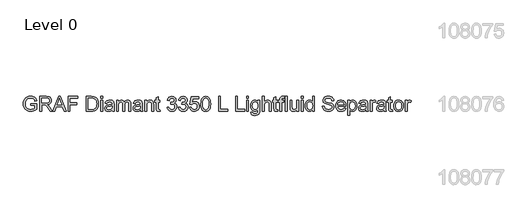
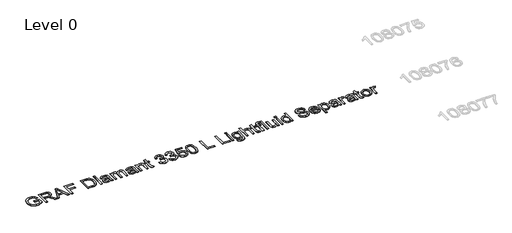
# One storey, part 2 of 8: 1 proxy.
"""IFC4 building model written with IfcOpenShell, lengths in millimetres."""

from ifc_helpers import new_model, si_unit, origin, origin_with_axes, place, context, project, spatial, polyline, outline, extrude, element, save

model = new_model("IFC4")

# Units and contexts
model_context = context("Model", 3, world=origin())
ifc_project = project(units=[si_unit("LENGTHUNIT", "METRE", prefix="MILLI")], contexts=[model_context])

# Site, building, storey
site = spatial("IfcSite", under=ifc_project)
building = spatial("IfcBuilding", under=site)
storey = spatial("IfcBuildingStorey", under=building, Name="Level 0", Elevation=0.0)

# Proxy
placement = place(None, origin())
element("IfcBuildingElementProxy", 1, Name="400mm Arial", ObjectType="400mm Arial", at=placement, inside=storey, context=model_context, shape_type="SweptSolid", body=[
    extrude(outline(polyline([(-14937.8149833, 2305.9861864), (-14937.8149833, 2356.2143415), (-14774.5734793, 2356.2143415), (-14774.5734793, 2206.0203856), (-14814.2434211, 2178.429236), (-14855.1641617, 2158.6371846), (-14897.2375993, 2146.717808), (-14940.3656318, 2142.7446824), (-14969.2167773, 2144.3235093), (-14996.7128907, 2149.05999), (-15022.8539722, 2156.9541245), (-15047.6400216, 2168.0059128), (-15070.2708957, 2182.0498079), (-15089.9464511, 2198.9202631), (-15106.6666877, 2218.6172783), (-15120.4316057, 2241.1408534), (-15131.182957, 2265.770553), (-15138.8624937, 2291.7859414), (-15143.4702157, 2319.1870187), (-15145.006123, 2347.9737848), (-15138.8870191, 2404.5662984), (-15131.2381393, 2431.3818302), (-15120.5297076, 2457.2102119), (-15106.9517963, 2480.9171408), (-15090.6944778, 2501.3683141), (-15071.7577521, 2518.5637317), (-15050.1416192, 2532.5033936), (-15026.3151286, 2543.2762047), (-15000.74733, 2550.9710698), (-14973.4382232, 2555.5879888), (-14944.3878083, 2557.1269618), (-14903.0133466, 2553.5585065), (-14865.8082141, 2542.8531404), (-14834.4769309, 2525.7834158), (-14810.7240167, 2503.1218849), (-14793.1515201, 2473.7771644), (-14780.3614894, 2436.6578711), (-14826.6655698, 2423.610323), (-14837.0030539, 2450.0855639), (-14849.5723554, 2470.0615563), (-14866.2006216, 2485.1201926), (-14888.7149997, 2496.8433655), (-14915.5581226, 2504.3849464), (-14945.1726232, 2506.8988067), (-14979.8393699, 2504.1887427), (-15009.478396, 2496.0585506), (-15033.9793369, 2483.5260373), (-15053.2318279, 2467.6090096), (-15068.0084214, 2449.1290708), (-15079.0816695, 2428.9078238), (-15090.8538933, 2390.9914528), (-15094.7779679, 2350.033924), (-15090.0568157, 2302.0007981), (-15075.8933588, 2262.4780091), (-15052.7167931, 2231.7475998), (-15020.9563142, 2210.091613), (-14983.78797, 2197.2525314), (-14944.3878083, 2192.9728375), (-14909.5984343, 2196.1979363), (-14875.6674516, 2205.8732328), (-14846.2001038, 2219.2028238), (-14824.8016344, 2233.390806), (-14824.8016344, 2305.9861864), (-14937.8149833, 2305.9861864)])), origin_with_axes(), (0.0, 0.0, 1.0), 5.0),
    extrude(outline(polyline([(-14692.9527273, 2149.0232018), (-14692.9527273, 2550.8484424), (-14519.8029349, 2550.8484424), (-14473.2658625, 2548.1383784), (-14439.4084563, 2540.0081863), (-14414.6622607, 2524.9986009), (-14395.4588206, 2501.6503569), (-14383.1347737, 2472.6980439), (-14379.0267581, 2440.8762513), (-14380.7282123, 2420.2380714), (-14385.832575, 2401.2921486), (-14394.3398462, 2384.0384831), (-14406.2500258, 2368.4770747), (-14421.716398, 2355.1045642), (-14440.892247, 2344.4175922), (-14463.7775727, 2336.4161588), (-14490.3723753, 2331.100264), (-14461.8247325, 2309.6159554), (-14421.1124584, 2257.9162724), (-14354.1088843, 2149.0232018), (-14412.4794942, 2149.0232018), (-14464.7677885, 2232.3116855), (-14502.5370066, 2287.4449339), (-14516.5778361, 2303.5213771), (-14529.0735612, 2313.4909791), (-14552.9613654, 2323.055911), (-14582.0976194, 2324.8217446), (-14642.7245723, 2324.8217446), (-14642.7245723, 2149.0232018), (-14692.9527273, 2149.0232018)]), holes=[polyline([(-14642.7245723, 2375.0498997), (-14530.2998345, 2375.0498997), (-14498.0120581, 2376.827996), (-14472.9592942, 2382.1622849), (-14454.0992106, 2391.4083857), (-14440.3894749, 2404.9219177), (-14432.0385536, 2421.268141), (-14429.2549132, 2439.0123159), (-14434.5646766, 2463.5132568), (-14450.493967, 2483.2562572), (-14462.6555327, 2490.8530204), (-14477.9011757, 2496.2792798), (-14517.6446939, 2500.6202873), (-14642.7245723, 2500.6202873), (-14642.7245723, 2375.0498997)])]), origin_with_axes(), (0.0, 0.0, 1.0), 5.0),
    extrude(outline(polyline([(-14337.9220765, 2149.0232018), (-14177.5255266, 2550.8484424), (-14134.7531133, 2550.8484424), (-13974.3565634, 2149.0232018), (-14027.4296726, 2149.0232018), (-14073.4394475, 2274.5935895), (-14238.9372943, 2274.5935895), (-14284.8489673, 2149.0232018), (-14337.9220765, 2149.0232018)]), holes=[polyline([(-14220.4941437, 2324.8217446), (-14091.7844963, 2324.8217446), (-14127.9840846, 2423.610323), (-14156.13932, 2500.6202873), (-14181.1552956, 2432.2432872), (-14220.4941437, 2324.8217446)])]), origin_with_axes(), (0.0, 0.0, 1.0), 5.0),
    extrude(outline(polyline([(-13920.6948431, 2149.0232018), (-13920.6948431, 2550.8484424), (-13650.7185095, 2550.8484424), (-13650.7185095, 2500.6202873), (-13870.466688, 2500.6202873), (-13870.466688, 2381.328419), (-13682.1111064, 2381.328419), (-13682.1111064, 2331.100264), (-13870.466688, 2331.100264), (-13870.466688, 2149.0232018), (-13920.6948431, 2149.0232018)])), origin_with_axes(), (0.0, 0.0, 1.0), 5.0),
    extrude(outline(polyline([(-13424.6918117, 2149.0232018), (-13424.6918117, 2550.8484424), (-13286.0738759, 2550.8484424), (-13244.6503633, 2549.4014399), (-13214.3614123, 2545.0604324), (-13182.3311533, 2533.9013452), (-13155.3040894, 2516.3165858), (-13127.516736, 2485.7088038), (-13107.7246846, 2447.64528), (-13095.8788844, 2402.8617785), (-13091.9302843, 2352.0940632), (-13094.6035602, 2308.9660306), (-13102.6233876, 2271.0128714), (-13114.8370699, 2238.7005695), (-13130.09191, 2212.4951087), (-13147.6521439, 2191.8078779), (-13166.7820076, 2176.0502657), (-13188.7445627, 2164.363881), (-13214.8028707, 2155.8903324), (-13245.0059825, 2150.7399845), (-13279.4029491, 2149.0232018), (-13424.6918117, 2149.0232018)]), holes=[polyline([(-13374.4636566, 2199.2513569), (-13285.5833666, 2199.2513569), (-13248.8196925, 2201.0662414), (-13220.9342373, 2206.5108949), (-13199.8913872, 2215.2664864), (-13183.6555284, 2227.0141848), (-13166.2056591, 2248.7560107), (-13153.0967974, 2276.8989833), (-13144.8930289, 2311.56573), (-13142.1584394, 2352.8788781), (-13147.5172538, 2407.619719), (-13154.2157718, 2429.6190623), (-13163.593697, 2448.0376875), (-13187.3466111, 2475.8005154), (-13215.7348384, 2492.5759344), (-13244.6258378, 2498.6091991), (-13286.9567927, 2500.6202873), (-13374.4636566, 2500.6202873), (-13374.4636566, 2199.2513569)])]), origin_with_axes(), (0.0, 0.0, 1.0), 5.0),
    extrude(outline(polyline([(-13029.1450905, 2500.6202873), (-13029.1450905, 2550.8484424), (-12978.9169354, 2550.8484424), (-12978.9169354, 2500.6202873), (-13029.1450905, 2500.6202873)])), origin_with_axes(), (0.0, 0.0, 1.0), 5.0),
    extrude(outline(polyline([(-13029.1450905, 2149.0232018), (-13029.1450905, 2444.1136129), (-12978.9169354, 2444.1136129), (-12978.9169354, 2149.0232018), (-13029.1450905, 2149.0232018)])), origin_with_axes(), (0.0, 0.0, 1.0), 5.0),
    extrude(outline(polyline([(-12715.2191213, 2186.6943181), (-12739.2172901, 2166.1174519), (-12763.9266974, 2152.6529708), (-12789.911429, 2145.2217545), (-12817.7355706, 2142.7446824), (-12840.0997302, 2144.2346045), (-12859.7109062, 2148.7043708), (-12876.5690987, 2156.1539812), (-12890.6743075, 2166.5834357), (-12901.8119349, 2179.3305469), (-12909.767383, 2193.733127), (-12914.5406519, 2209.7911761), (-12916.1317416, 2227.5046941), (-12913.7282459, 2248.3268151), (-12906.5177588, 2267.2359496), (-12895.3954598, 2283.4227574), (-12881.2565284, 2296.077898), (-12864.640525, 2305.6428299), (-12846.0870097, 2312.5590114), (-12802.6278833, 2320.112855), (-12751.2715568, 2328.0591061), (-12715.5134269, 2337.3787834), (-12715.2191213, 2348.562396), (-12718.677212, 2370.9786722), (-12729.0514843, 2385.6449011), (-12752.2525754, 2396.5342082), (-12784.5771401, 2400.1639772), (-12814.498209, 2397.7482188), (-12835.3939063, 2390.5009435), (-12849.6432023, 2377.0977761), (-12859.6250671, 2356.2143415), (-12909.8532222, 2362.4928609), (-12901.1344189, 2389.9613832), (-12888.123659, 2411.5437936), (-12869.6069319, 2428.0494324), (-12844.370227, 2440.2876401), (-12813.5049276, 2447.8660092), (-12778.102417, 2450.3921323), (-12744.1469088, 2448.1603148), (-12717.2302095, 2441.4648625), (-12696.9353861, 2431.3971586), (-12682.8455057, 2419.0485863), (-12673.501303, 2403.7814835), (-12667.4435128, 2384.9581881), (-12664.9909662, 2341.0085524), (-12664.9909662, 2278.5176641), (-12662.4403177, 2191.2560549), (-12652.4339274, 2149.0232018), (-12702.6620825, 2149.0232018), (-12710.7064355, 2166.4853339), (-12715.2191213, 2186.6943181)]), holes=[polyline([(-12715.2191213, 2287.1506283), (-12748.9661629, 2278.7874443), (-12796.2512621, 2271.7486354), (-12839.4651338, 2263.6061806), (-12850.7100601, 2258.0388997), (-12859.0364559, 2250.3624288), (-12864.1868038, 2241.1653789), (-12865.9035865, 2231.0363613), (-12862.1634529, 2216.1003523), (-12850.943052, 2203.8621446), (-12832.4876386, 2195.6951643), (-12807.0424673, 2192.9728375), (-12780.0644543, 2195.9772071), (-12756.225701, 2204.990316), (-12736.8996335, 2218.270856), (-12723.459678, 2234.0775191), (-12717.4999896, 2250.3624288), (-12715.5134269, 2272.9258578), (-12715.2191213, 2287.1506283)])]), origin_with_axes(), (0.0, 0.0, 1.0), 5.0),
    extrude(outline(polyline([(-12595.927253, 2149.0232018), (-12595.927253, 2444.1136129), (-12545.6990979, 2444.1136129), (-12545.6990979, 2395.5531895), (-12530.5914106, 2417.8591012), (-12511.1672413, 2435.3334959), (-12488.0887774, 2446.6274732), (-12462.0182067, 2450.3921323), (-12434.0837005, 2446.5538968), (-12411.6919498, 2435.0391903), (-12394.9655817, 2416.6083024), (-12384.0272237, 2392.0215224), (-12365.7189631, 2417.5586642), (-12344.8355285, 2435.7994798), (-12321.37692, 2446.7439692), (-12295.3431374, 2450.3921323), (-12275.2353207, 2448.874619), (-12257.586182, 2444.3220794), (-12242.3957213, 2436.7345132), (-12229.6639386, 2426.1119206), (-12219.5993003, 2412.3316742), (-12212.410273, 2395.2711467), (-12208.0968566, 2374.930338), (-12206.6590511, 2351.3092482), (-12206.6590511, 2149.0232018), (-12256.8872062, 2149.0232018), (-12256.8872062, 2329.7268379), (-12258.0521659, 2354.7796017), (-12261.5470448, 2371.6653853), (-12268.0953443, 2383.2291427), (-12278.4205657, 2392.315828), (-12291.7011057, 2398.2019399), (-12307.1153613, 2400.1639772), (-12334.3263662, 2395.1362566), (-12356.5096505, 2380.0530948), (-12365.1150235, 2368.483206), (-12371.2617185, 2353.8844222), (-12376.1790745, 2315.6001692), (-12376.1790745, 2149.0232018), (-12426.4072296, 2149.0232018), (-12426.4072296, 2335.3186442), (-12429.3134973, 2363.7191342), (-12438.0323006, 2383.9771694), (-12453.3729798, 2396.1172752), (-12476.1448753, 2400.1639772), (-12495.4954683, 2397.4661759), (-12513.3254823, 2389.372772), (-12528.0407621, 2376.0799692), (-12538.0471524, 2357.7839714), (-12543.7861115, 2332.4001137), (-12545.6990979, 2297.8437316), (-12545.6990979, 2149.0232018), (-12595.927253, 2149.0232018)])), origin_with_axes(), (0.0, 0.0, 1.0), 5.0),
    extrude(outline(polyline([(-11942.961237, 2186.6943181), (-11966.9594058, 2166.1174519), (-11991.6688131, 2152.6529708), (-12017.6535447, 2145.2217545), (-12045.4776863, 2142.7446824), (-12067.8418459, 2144.2346045), (-12087.453022, 2148.7043708), (-12104.3112144, 2156.1539812), (-12118.4164232, 2166.5834357), (-12129.5540506, 2179.3305469), (-12137.5094988, 2193.733127), (-12142.2827677, 2209.7911761), (-12143.8738573, 2227.5046941), (-12141.4703616, 2248.3268151), (-12134.2598745, 2267.2359496), (-12123.1375755, 2283.4227574), (-12108.9986441, 2296.077898), (-12092.3826407, 2305.6428299), (-12073.8291254, 2312.5590114), (-12030.369999, 2320.112855), (-11979.0136725, 2328.0591061), (-11943.2555426, 2337.3787834), (-11942.961237, 2348.562396), (-11946.4193277, 2370.9786722), (-11956.7936, 2385.6449011), (-11979.9946912, 2396.5342082), (-12012.3192558, 2400.1639772), (-12042.2403247, 2397.7482188), (-12063.1360221, 2390.5009435), (-12077.385318, 2377.0977761), (-12087.3671828, 2356.2143415), (-12137.5953379, 2362.4928609), (-12128.8765346, 2389.9613832), (-12115.8657747, 2411.5437936), (-12097.3490476, 2428.0494324), (-12072.1123428, 2440.2876401), (-12041.2470434, 2447.8660092), (-12005.8445327, 2450.3921323), (-11971.8890245, 2448.1603148), (-11944.9723252, 2441.4648625), (-11924.6775018, 2431.3971586), (-11910.5876214, 2419.0485863), (-11901.2434187, 2403.7814835), (-11895.1856285, 2384.9581881), (-11892.7330819, 2341.0085524), (-11892.7330819, 2278.5176641), (-11890.1824334, 2191.2560549), (-11880.1760431, 2149.0232018), (-11930.4041982, 2149.0232018), (-11938.4485512, 2166.4853339), (-11942.961237, 2186.6943181)]), holes=[polyline([(-11942.961237, 2287.1506283), (-11976.7082787, 2278.7874443), (-12023.9933778, 2271.7486354), (-12067.2072495, 2263.6061806), (-12078.4521758, 2258.0388997), (-12086.7785716, 2250.3624288), (-12091.9289196, 2241.1653789), (-12093.6457022, 2231.0363613), (-12089.9055686, 2216.1003523), (-12078.6851677, 2203.8621446), (-12060.2297543, 2195.6951643), (-12034.784583, 2192.9728375), (-12007.80657, 2195.9772071), (-11983.9678167, 2204.990316), (-11964.6417492, 2218.270856), (-11951.2017937, 2234.0775191), (-11945.2421054, 2250.3624288), (-11943.2555426, 2272.9258578), (-11942.961237, 2287.1506283)])]), origin_with_axes(), (0.0, 0.0, 1.0), 5.0),
    extrude(outline(polyline([(-11823.6693687, 2149.0232018), (-11823.6693687, 2444.1136129), (-11773.4412136, 2444.1136129), (-11773.4412136, 2402.9108294), (-11755.9913443, 2423.6838994), (-11735.0343333, 2438.5218066), (-11710.5701806, 2447.4245508), (-11682.5988863, 2450.3921323), (-11657.840428, 2448.0008993), (-11635.1666344, 2440.8272004), (-11616.2574998, 2429.7662151), (-11602.7930188, 2415.7131229), (-11593.6572826, 2398.7047119), (-11587.7343824, 2378.7777705), (-11585.0856321, 2330.2173472), (-11585.0856321, 2149.0232018), (-11635.3137871, 2149.0232018), (-11635.3137871, 2323.4483185), (-11636.7607897, 2349.4207873), (-11641.1017972, 2367.8884635), (-11649.109362, 2381.1199526), (-11661.5560361, 2391.3838602), (-11677.509852, 2397.968948), (-11696.0388418, 2400.1639772), (-11725.4571387, 2395.2343585), (-11750.534428, 2380.4455023), (-11760.5561467, 2368.3728414), (-11767.7145172, 2351.873334), (-11772.0095395, 2330.9469798), (-11773.4412136, 2305.593779), (-11773.4412136, 2149.0232018), (-11823.6693687, 2149.0232018)])), origin_with_axes(), (0.0, 0.0, 1.0), 5.0),
    extrude(outline(polyline([(-11409.2870893, 2190.9126983), (-11403.0085699, 2147.5516738), (-11440.5815844, 2142.7446824), (-11464.6901178, 2144.8293471), (-11482.6672846, 2151.083341), (-11495.3714762, 2160.7218493), (-11503.6610838, 2172.960057), (-11508.2228205, 2193.9783816), (-11509.7433995, 2229.9572408), (-11509.7433995, 2393.8854578), (-11547.4145158, 2393.8854578), (-11547.4145158, 2444.1136129), (-11509.7433995, 2444.1136129), (-11509.7433995, 2515.8260765), (-11459.5152444, 2545.354738), (-11459.5152444, 2444.1136129), (-11409.2870893, 2444.1136129), (-11409.2870893, 2393.8854578), (-11459.5152444, 2393.8854578), (-11459.5152444, 2231.4287687), (-11456.866494, 2205.5298763), (-11448.2825808, 2196.3573519), (-11431.1638053, 2192.9728375), (-11409.2870893, 2190.9126983)])), origin_with_axes(), (0.0, 0.0, 1.0), 5.0),
    extrude(outline(polyline([(-11214.6529884, 2255.7580314), (-11164.4248333, 2262.0365507), (-11153.179907, 2230.4722756), (-11136.7110564, 2209.1596453), (-11114.208941, 2197.0195395), (-11084.8642205, 2192.9728375), (-11050.4304658, 2198.5401184), (-11036.1566443, 2205.4992194), (-11023.8448602, 2215.241961), (-11006.8487121, 2240.1598348), (-11001.1833293, 2270.3752093), (-11006.7996611, 2299.0577422), (-11023.6486565, 2322.320147), (-11049.1551415, 2337.7344026), (-11080.7439422, 2342.8724878), (-11115.9625118, 2337.3787834), (-11110.3707055, 2387.6069384), (-11102.3263525, 2387.0183272), (-11072.2336053, 2390.6235708), (-11045.3291688, 2401.4393014), (-11034.2559207, 2409.6185445), (-11026.3464578, 2419.7352993), (-11021.6007801, 2431.789566), (-11020.0188875, 2445.7813446), (-11024.6051497, 2467.4741196), (-11038.3639363, 2485.0711417), (-11059.3577355, 2496.7330009), (-11085.6490354, 2500.6202873), (-11111.9893863, 2496.6962127), (-11133.5227457, 2484.9239889), (-11149.2435697, 2465.3036158), (-11158.1463139, 2437.8350935), (-11208.374469, 2444.1136129), (-11202.4209121, 2468.0933876), (-11193.5856128, 2489.2159455), (-11181.8685713, 2507.4812866), (-11167.2697874, 2522.8894108), (-11150.2491138, 2535.1214871), (-11131.2664028, 2543.8586845), (-11110.3216546, 2549.1010029), (-11087.414869, 2550.8484424), (-11055.8383311, 2547.4026144), (-11026.8369671, 2537.0651303), (-11002.3850772, 2520.7556952), (-10984.4569613, 2499.394014), (-10973.4572896, 2474.7827086), (-10969.7907324, 2448.7244006), (-10973.2733486, 2424.4441889), (-10983.7211973, 2402.4203201), (-11000.9871256, 2383.6583383), (-11024.9239808, 2369.1637877), (-10993.4823329, 2356.4595962), (-10970.1831399, 2334.8281349), (-10955.7621657, 2305.4466262), (-10950.9551743, 2269.4922925), (-10953.35867, 2244.010333), (-10960.5691571, 2220.5394617), (-10972.5866356, 2199.0796786), (-10989.4111055, 2179.6309838), (-11009.908264, 2163.493227), (-11032.9438082, 2151.9662578), (-11058.5177383, 2145.0500763), (-11086.6300541, 2142.7446824), (-11112.0384372, 2144.7128511), (-11135.1904774, 2150.6173571), (-11156.0861748, 2160.4582005), (-11174.7255292, 2174.2353812), (-11190.3543826, 2191.1395589), (-11202.218577, 2210.3613932), (-11210.3181122, 2231.900884), (-11214.6529884, 2255.7580314)])), origin_with_axes(), (0.0, 0.0, 1.0), 5.0),
    extrude(outline(polyline([(-10907.0055386, 2255.7580314), (-10856.7773835, 2262.0365507), (-10845.5324572, 2230.4722756), (-10829.0636065, 2209.1596453), (-10806.5614911, 2197.0195395), (-10777.2167707, 2192.9728375), (-10742.7830159, 2198.5401184), (-10728.5091945, 2205.4992194), (-10716.1974104, 2215.241961), (-10699.2012622, 2240.1598348), (-10693.5358795, 2270.3752093), (-10699.1522113, 2299.0577422), (-10716.0012067, 2322.320147), (-10741.5076917, 2337.7344026), (-10773.0964923, 2342.8724878), (-10808.315062, 2337.3787834), (-10802.7232557, 2387.6069384), (-10794.6789027, 2387.0183272), (-10764.5861555, 2390.6235708), (-10737.6817189, 2401.4393014), (-10726.6084709, 2409.6185445), (-10718.699008, 2419.7352993), (-10713.9533302, 2431.789566), (-10712.3714377, 2445.7813446), (-10716.9576999, 2467.4741196), (-10730.7164865, 2485.0711417), (-10751.7102857, 2496.7330009), (-10778.0015856, 2500.6202873), (-10804.3419364, 2496.6962127), (-10825.8752959, 2484.9239889), (-10841.5961198, 2465.3036158), (-10850.4988641, 2437.8350935), (-10900.7270192, 2444.1136129), (-10894.7734622, 2468.0933876), (-10885.938163, 2489.2159455), (-10874.2211214, 2507.4812866), (-10859.6223376, 2522.8894108), (-10842.6016639, 2535.1214871), (-10823.618953, 2543.8586845), (-10802.6742047, 2549.1010029), (-10779.7674192, 2550.8484424), (-10748.1908812, 2547.4026144), (-10719.1895173, 2537.0651303), (-10694.7376273, 2520.7556952), (-10676.8095114, 2499.394014), (-10665.8098398, 2474.7827086), (-10662.1432826, 2448.7244006), (-10665.6258988, 2424.4441889), (-10676.0737475, 2402.4203201), (-10693.3396758, 2383.6583383), (-10717.2765309, 2369.1637877), (-10685.8348831, 2356.4595962), (-10662.53569, 2334.8281349), (-10648.1147158, 2305.4466262), (-10643.3077244, 2269.4922925), (-10645.7112201, 2244.010333), (-10652.9217072, 2220.5394617), (-10664.9391857, 2199.0796786), (-10681.7636557, 2179.6309838), (-10702.2608141, 2163.493227), (-10725.2963584, 2151.9662578), (-10750.8702884, 2145.0500763), (-10778.9826042, 2142.7446824), (-10804.3909874, 2144.7128511), (-10827.5430276, 2150.6173571), (-10848.4387249, 2160.4582005), (-10867.0780794, 2174.2353812), (-10882.7069328, 2191.1395589), (-10894.5711271, 2210.3613932), (-10902.6706624, 2231.900884), (-10907.0055386, 2255.7580314)])), origin_with_axes(), (0.0, 0.0, 1.0), 5.0),
    extrude(outline(polyline([(-10599.3580887, 2255.7580314), (-10549.1299337, 2262.0365507), (-10539.9083583, 2231.8824899), (-10523.8196524, 2210.2878168), (-10500.9373923, 2197.3015823), (-10471.3351544, 2192.9728375), (-10452.2052907, 2194.478088), (-10435.3317698, 2198.9938395), (-10420.7145919, 2206.520092), (-10408.3537568, 2217.0568455), (-10398.5251762, 2230.0829338), (-10391.5047615, 2245.0771908), (-10385.8884297, 2280.9702108), (-10391.1491422, 2314.7663034), (-10397.7250329, 2328.6845055), (-10406.9312798, 2340.6161449), (-10418.7985398, 2350.1872082), (-10433.3574698, 2357.0236819), (-10470.5503395, 2362.4928609), (-10494.9163903, 2360.3100944), (-10514.647128, 2353.7617949), (-10530.4047401, 2343.7308791), (-10542.8514143, 2331.100264), (-10593.0795693, 2337.3787834), (-10549.1299337, 2544.569923), (-10354.4958327, 2544.569923), (-10354.4958327, 2494.341768), (-10508.5157614, 2494.341768), (-10530.0000699, 2383.6828638), (-10512.2742891, 2396.3870554), (-10494.1193126, 2405.4614779), (-10475.5351405, 2410.9061315), (-10456.5217727, 2412.721016), (-10432.0606857, 2410.4708044), (-10409.5922929, 2403.7201698), (-10389.1165942, 2392.4691121), (-10370.6335896, 2376.7176314), (-10355.3327643, 2357.4283521), (-10344.4036033, 2335.5638988), (-10337.8461068, 2311.1242716), (-10335.6602746, 2284.1094705), (-10337.6284433, 2258.0879507), (-10343.5329493, 2233.8813154), (-10353.3737927, 2211.4895646), (-10367.1509734, 2190.9126983), (-10388.0221452, 2169.8391914), (-10412.3759333, 2154.7866864), (-10440.2123376, 2145.7551834), (-10471.5313581, 2142.7446824), (-10497.4517104, 2144.6791286), (-10520.8643337, 2150.4824671), (-10541.7692281, 2160.1546979), (-10560.1663935, 2173.695821), (-10575.4733502, 2190.4313861), (-10587.1076183, 2209.6869428), (-10595.0691978, 2231.4624913), (-10599.3580887, 2255.7580314)])), origin_with_axes(), (0.0, 0.0, 1.0), 5.0),
    extrude(outline(polyline([(-10291.7106389, 2346.6984606), (-10288.0195562, 2411.0164961), (-10276.9463082, 2462.3115089), (-10258.6012593, 2501.3683141), (-10246.7431964, 2516.6016944), (-10233.0947743, 2528.9717264), (-10217.610008, 2538.5427897), (-10200.2429122, 2545.3792634), (-10159.8617318, 2550.8484424), (-10128.9105933, 2547.6110809), (-10101.1968163, 2537.8989962), (-10078.0202506, 2522.0923331), (-10060.6807459, 2500.5712364), (-10047.5841469, 2473.519647), (-10037.1362982, 2441.121506), (-10030.2936931, 2399.9800362), (-10028.0128248, 2346.6984606), (-10031.6671192, 2282.7483071), (-10042.6300027, 2231.5759215), (-10060.8646869, 2192.4823282), (-10072.6951588, 2177.2029627), (-10086.3343837, 2164.7685512), (-10101.8375441, 2155.1331086), (-10119.2598223, 2148.2506496), (-10159.8617318, 2142.7446824), (-10187.5264579, 2145.1359154), (-10212.0519242, 2152.3096143), (-10233.4381309, 2164.2657792), (-10251.6850778, 2181.0044099), (-10269.1962608, 2211.262704), (-10281.7042486, 2248.9644772), (-10289.2090413, 2294.1097294), (-10291.7106389, 2346.6984606)]), holes=[polyline([(-10241.4824838, 2346.7965624), (-10240.0109558, 2303.1320353), (-10235.5963719, 2267.7877726), (-10228.238732, 2240.7637744), (-10217.9380361, 2222.0600406), (-10205.4790992, 2209.3343892), (-10191.6467362, 2200.2446383), (-10176.4409471, 2194.7907877), (-10159.8617318, 2192.9728375), (-10143.2825166, 2194.7969191), (-10128.0767274, 2200.2691637), (-10114.2443644, 2209.3895715), (-10101.7854275, 2222.1581425), (-10091.4847317, 2240.8925331), (-10084.1270918, 2267.9103999), (-10079.7125078, 2303.2117431), (-10078.2409798, 2346.7965624), (-10079.6634569, 2389.305327), (-10083.930888, 2424.0272559), (-10091.0432733, 2450.9623494), (-10101.0006126, 2470.1106072), (-10113.251083, 2483.4585923), (-10127.2428616, 2492.9928673), (-10142.9759482, 2498.7134323), (-10160.450343, 2500.6202873), (-10176.9437191, 2498.9402929), (-10191.8919909, 2493.9003096), (-10205.2951582, 2485.5003373), (-10217.1532212, 2473.7403762), (-10227.7972736, 2452.8937298), (-10235.4001682, 2424.7875454), (-10239.9619049, 2389.4218229), (-10241.4824838, 2346.7965624)])]), origin_with_axes(), (0.0, 0.0, 1.0), 5.0),
    extrude(outline(polyline([(-9808.2646463, 2149.0232018), (-9808.2646463, 2550.8484424), (-9758.0364912, 2550.8484424), (-9758.0364912, 2199.2513569), (-9557.1238709, 2199.2513569), (-9557.1238709, 2149.0232018), (-9808.2646463, 2149.0232018)])), origin_with_axes(), (0.0, 0.0, 1.0), 5.0),
    extrude(outline(polyline([(-9343.6542119, 2149.0232018), (-9343.6542119, 2550.8484424), (-9293.4260568, 2550.8484424), (-9293.4260568, 2199.2513569), (-9092.5134365, 2199.2513569), (-9092.5134365, 2149.0232018), (-9343.6542119, 2149.0232018)])), origin_with_axes(), (0.0, 0.0, 1.0), 5.0),
    extrude(outline(polyline([(-9042.2852814, 2149.0232018), (-9042.2852814, 2444.1136129), (-8992.0571263, 2444.1136129), (-8992.0571263, 2149.0232018), (-9042.2852814, 2149.0232018)])), origin_with_axes(), (0.0, 0.0, 1.0), 5.0),
    extrude(outline(polyline([(-9042.2852814, 2500.6202873), (-9042.2852814, 2550.8484424), (-8992.0571263, 2550.8484424), (-8992.0571263, 2500.6202873), (-9042.2852814, 2500.6202873)])), origin_with_axes(), (0.0, 0.0, 1.0), 5.0),
    extrude(outline(polyline([(-8929.2719325, 2123.9091243), (-8879.0437774, 2117.6306049), (-8873.501022, 2101.9343064), (-8862.7588678, 2091.1431012), (-8841.6424412, 2082.7553918), (-8814.0022407, 2079.9594886), (-8784.5226301, 2083.1232738), (-8762.5968632, 2092.6146292), (-8747.3910741, 2107.8204184), (-8738.0713969, 2128.1275045), (-8734.6378316, 2186.6943181), (-8751.3519369, 2170.2132047), (-8770.003554, 2158.4409809), (-8790.592683, 2151.3776466), (-8813.1193239, 2149.0232018), (-8840.6583569, 2151.7639227), (-8864.9048461, 2159.9860853), (-8885.8587914, 2173.6896896), (-8903.5201928, 2192.8747356), (-8917.5334312, 2215.8918858), (-8927.5428871, 2241.0918025), (-8933.5485607, 2268.4744857), (-8935.5504519, 2298.0399353), (-8931.9574711, 2338.5927939), (-8921.1785286, 2375.8837655), (-8903.5937692, 2407.4848289), (-8879.5833377, 2430.9679629), (-8849.9688371, 2445.5360899), (-8815.5718705, 2450.3921323), (-8792.0826051, 2447.64528), (-8770.7638435, 2439.4047233), (-8751.6155857, 2425.6704622), (-8734.6378316, 2406.4424966), (-8734.6378316, 2444.1136129), (-8684.4096765, 2444.1136129), (-8684.4096765, 2189.3430685), (-8687.8432418, 2130.5187375), (-8698.1439377, 2091.7807634), (-8715.8881126, 2066.0903374), (-8741.652115, 2046.4086506), (-8774.8718591, 2033.9006628), (-8814.9832593, 2029.7313335), (-8839.5914991, 2031.1997958), (-8861.7165354, 2035.6051827), (-8881.3583683, 2042.9474942), (-8898.5169977, 2053.2267303), (-8912.3769519, 2066.4551537), (-8922.1227591, 2082.6450272), (-8927.7544193, 2101.7963507), (-8929.2719325, 2123.9091243)]), holes=[polyline([(-8885.3222968, 2301.4735006), (-8879.9634824, 2255.4024121), (-8873.2649644, 2237.7655361), (-8863.8870392, 2223.7277723), (-8852.4857631, 2213.0193406), (-8839.7171921, 2205.3704607), (-8825.5813265, 2200.7811329), (-8810.0781661, 2199.2513569), (-8794.7282898, 2200.7719358), (-8780.6598692, 2205.3336726), (-8767.8729042, 2212.9365671), (-8756.3673948, 2223.5806195), (-8746.8607109, 2237.4804276), (-8740.0702224, 2254.8505891), (-8734.6378316, 2300.0019726), (-8740.2296379, 2343.5469381), (-8747.2193958, 2360.7484871), (-8757.0050569, 2374.9027469), (-8768.7588866, 2385.9545351), (-8781.6531506, 2393.8486696), (-8795.6878487, 2398.5851503), (-8810.862981, 2400.1639772), (-8825.7836616, 2398.6096758), (-8839.5455139, 2393.9467715), (-8863.5927336, 2375.2951543), (-8873.0994175, 2361.3554924), (-8879.889906, 2344.4053295), (-8885.3222968, 2301.4735006)])]), origin_with_axes(), (0.0, 0.0, 1.0), 5.0),
    extrude(outline(polyline([(-8609.0674439, 2149.0232018), (-8609.0674439, 2550.8484424), (-8558.8392888, 2550.8484424), (-8558.8392888, 2403.1070332), (-8540.3900068, 2423.794264), (-8519.6721191, 2438.5708575), (-8496.6856257, 2447.4368136), (-8471.4305268, 2450.3921323), (-8441.0925249, 2447.1670334), (-8415.0219542, 2437.491737), (-8394.4941388, 2422.1265323), (-8380.7844032, 2401.8317089), (-8373.0588813, 2373.9462537), (-8370.4837073, 2335.8091535), (-8370.4837073, 2149.0232018), (-8420.7118624, 2149.0232018), (-8420.7118624, 2330.6097546), (-8424.7095134, 2362.0514025), (-8436.7024664, 2383.5847619), (-8456.0285339, 2396.0191734), (-8482.0255282, 2400.1639772), (-8503.2523193, 2397.368074), (-8523.1792608, 2388.9803645), (-8539.6848996, 2375.8101891), (-8550.6477831, 2358.6668881), (-8556.7914124, 2335.8827299), (-8558.8392888, 2305.7899827), (-8558.8392888, 2149.0232018), (-8609.0674439, 2149.0232018)])), origin_with_axes(), (0.0, 0.0, 1.0), 5.0),
    extrude(outline(polyline([(-8194.6851645, 2190.9126983), (-8188.4066451, 2147.5516738), (-8225.9796596, 2142.7446824), (-8250.088193, 2144.8293471), (-8268.0653598, 2151.083341), (-8280.7695514, 2160.7218493), (-8289.059159, 2172.960057), (-8293.6208958, 2193.9783816), (-8295.1414747, 2229.9572408), (-8295.1414747, 2393.8854578), (-8332.812591, 2393.8854578), (-8332.812591, 2444.1136129), (-8295.1414747, 2444.1136129), (-8295.1414747, 2515.8260765), (-8244.9133196, 2545.354738), (-8244.9133196, 2444.1136129), (-8194.6851645, 2444.1136129), (-8194.6851645, 2393.8854578), (-8244.9133196, 2393.8854578), (-8244.9133196, 2231.4287687), (-8242.2645692, 2205.5298763), (-8233.680656, 2196.3573519), (-8216.5618805, 2192.9728375), (-8194.6851645, 2190.9126983)])), origin_with_axes(), (0.0, 0.0, 1.0), 5.0),
    extrude(outline(polyline([(-8131.8999707, 2149.0232018), (-8131.8999707, 2393.8854578), (-8175.8496064, 2393.8854578), (-8175.8496064, 2444.1136129), (-8131.8999707, 2444.1136129), (-8131.8999707, 2473.8384781), (-8130.5755955, 2498.4375208), (-8126.60247, 2515.7279746), (-8116.4979778, 2532.4298172), (-8100.8997812, 2545.6490436), (-8079.0721162, 2554.2574822), (-8050.2792187, 2557.1269618), (-8004.4656476, 2551.6332573), (-8011.8232875, 2504.544362), (-8040.7633377, 2506.8988067), (-8059.8564133, 2504.8141421), (-8072.4011893, 2498.5601482), (-8079.354159, 2486.6162461), (-8081.6718156, 2467.4618568), (-8081.6718156, 2444.1136129), (-8025.1651411, 2444.1136129), (-8025.1651411, 2393.8854578), (-8081.6718156, 2393.8854578), (-8081.6718156, 2149.0232018), (-8131.8999707, 2149.0232018)])), origin_with_axes(), (0.0, 0.0, 1.0), 5.0),
    extrude(outline(polyline([(-7981.2155055, 2149.0232018), (-7981.2155055, 2550.8484424), (-7930.9873504, 2550.8484424), (-7930.9873504, 2149.0232018), (-7981.2155055, 2149.0232018)])), origin_with_axes(), (0.0, 0.0, 1.0), 5.0),
    extrude(outline(polyline([(-7667.2895362, 2149.0232018), (-7667.2895362, 2199.7418662), (-7685.4629068, 2174.8055983), (-7706.6283843, 2156.9939784), (-7730.7859686, 2146.3070064), (-7757.9356599, 2142.7446824), (-7782.3998125, 2145.24628), (-7805.171708, 2152.7510727), (-7824.2770463, 2164.0327872), (-7837.7415273, 2177.8651502), (-7846.8036872, 2194.6650947), (-7852.7020618, 2214.8495535), (-7855.6451178, 2261.5460414), (-7855.6451178, 2444.1136129), (-7805.4169627, 2444.1136129), (-7805.4169627, 2285.188591), (-7802.3758049, 2233.9794172), (-7795.0549532, 2216.8974299), (-7782.5101771, 2203.9111955), (-7765.5753426, 2195.707427), (-7745.0843155, 2192.9728375), (-7723.416066, 2195.7687407), (-7703.145768, 2204.1564502), (-7686.4316627, 2217.3634138), (-7675.4319911, 2234.6170794), (-7669.3251499, 2258.2473662), (-7667.2895362, 2290.5841936), (-7667.2895362, 2444.1136129), (-7617.0613812, 2444.1136129), (-7617.0613812, 2149.0232018), (-7667.2895362, 2149.0232018)])), origin_with_axes(), (0.0, 0.0, 1.0), 5.0),
    extrude(outline(polyline([(-7547.9976679, 2500.6202873), (-7547.9976679, 2550.8484424), (-7497.7695129, 2550.8484424), (-7497.7695129, 2500.6202873), (-7547.9976679, 2500.6202873)])), origin_with_axes(), (0.0, 0.0, 1.0), 5.0),
    extrude(outline(polyline([(-7547.9976679, 2149.0232018), (-7547.9976679, 2444.1136129), (-7497.7695129, 2444.1136129), (-7497.7695129, 2149.0232018), (-7547.9976679, 2149.0232018)])), origin_with_axes(), (0.0, 0.0, 1.0), 5.0),
    extrude(outline(polyline([(-7240.3502181, 2149.0232018), (-7240.3502181, 2196.4064028), (-7255.3781976, 2172.9294001), (-7273.582225, 2156.1601125), (-7294.9623003, 2146.09854), (-7319.5184235, 2142.7446824), (-7351.9901409, 2147.6007248), (-7381.7150061, 2162.1688518), (-7406.8781346, 2185.4312566), (-7425.6646418, 2216.3701324), (-7437.3632893, 2253.7346804), (-7441.2628384, 2296.2741018), (-7437.6698576, 2338.2862256), (-7426.8909151, 2376.227122), (-7408.9382738, 2407.93855), (-7383.8241962, 2431.2622685), (-7353.4494062, 2445.6096663), (-7319.7146272, 2450.3921323), (-7295.1401099, 2446.9708297), (-7273.4105467, 2436.7069221), (-7254.9919215, 2420.9738354), (-7240.3502181, 2401.1449958), (-7240.3502181, 2550.8484424), (-7190.122063, 2550.8484424), (-7190.122063, 2149.0232018), (-7240.3502181, 2149.0232018)]), holes=[polyline([(-7391.0346833, 2296.4703055), (-7389.6183376, 2272.1134517), (-7385.3693006, 2251.0368791), (-7378.2875722, 2233.2405876), (-7368.3731524, 2218.7245772), (-7343.6760078, 2199.4107724), (-7329.8007252, 2194.5823212), (-7314.9076358, 2192.9728375), (-7299.9440356, 2194.5087448), (-7286.1515265, 2199.1164668), (-7262.0797813, 2217.5473548), (-7252.5730974, 2231.4563599), (-7245.7826089, 2248.6088579), (-7240.3502181, 2292.6443327), (-7245.8807108, 2340.7878232), (-7252.7938266, 2359.3229444), (-7262.4721887, 2374.1669829), (-7274.1739019, 2385.5406679), (-7287.1570706, 2393.6647286), (-7301.421695, 2398.5391651), (-7316.967775, 2400.1639772), (-7332.15517, 2398.6035444), (-7346.0304526, 2393.922246), (-7358.5936227, 2386.120082), (-7369.8446804, 2375.1970525), (-7379.1153067, 2360.914034), (-7385.7371826, 2343.0319033), (-7391.0346833, 2296.4703055)])]), origin_with_axes(), (0.0, 0.0, 1.0), 5.0),
    extrude(outline(polyline([(-6970.3738846, 2287.1506283), (-6920.1457295, 2287.1506283), (-6914.3822449, 2259.2774358), (-6903.9589217, 2236.8734223), (-6887.6985375, 2219.0924592), (-6864.42387, 2205.0884179), (-6835.974329, 2196.0017326), (-6804.1893246, 2192.9728375), (-6776.2057675, 2195.2659686), (-6751.7048266, 2202.1453619), (-6731.8514616, 2213.034669), (-6717.8106322, 2227.3575413), (-6709.4597109, 2243.8018665), (-6706.6760704, 2261.0555321), (-6708.7607351, 2277.8677393), (-6715.014729, 2292.3990781), (-6727.7189206, 2304.7967013), (-6749.1541781, 2315.2077618), (-6822.2891188, 2334.3866765), (-6870.2977192, 2347.0786053), (-6901.0158658, 2359.1573975), (-6926.0195787, 2376.0554438), (-6943.7392281, 2396.5342082), (-6954.2974414, 2420.1522323), (-6957.8168458, 2446.4680577), (-6953.4635755, 2475.8863545), (-6940.4037647, 2503.3180886), (-6918.9807699, 2526.5682307), (-6889.5379475, 2543.4417516), (-6854.1967505, 2553.7056592), (-6815.0786317, 2557.1269618), (-6772.6986258, 2553.5462437), (-6735.6161207, 2542.8040895), (-6705.1554915, 2525.1212282), (-6682.6411134, 2500.7183892), (-6668.3918175, 2471.1161513), (-6662.7264347, 2437.8350935), (-6712.9545898, 2437.8350935), (-6722.1761652, 2467.8052134), (-6730.5393492, 2479.6632764), (-6741.4041308, 2489.4366747), (-6771.4478271, 2502.5332737), (-6813.1165944, 2506.8988067), (-6855.7663803, 2502.5823247), (-6872.0696841, 2497.1867221), (-6885.0252617, 2489.6328784), (-6901.9478335, 2470.5765911), (-6907.5886907, 2447.9395856), (-6903.5910397, 2428.6380436), (-6891.5980867, 2413.1134234), (-6863.2466476, 2399.2320095), (-6809.5849272, 2385.0562899), (-6754.2064242, 2371.5918089), (-6720.7046372, 2359.8441105), (-6692.0711552, 2341.621689), (-6672.0951629, 2319.1318364), (-6660.3597272, 2292.6198073), (-6656.4479154, 2262.3308563), (-6660.9483384, 2231.3674551), (-6674.4496077, 2202.2434638), (-6696.3999, 2177.1784372), (-6726.2473926, 2158.39193), (-6762.1404126, 2146.6564943), (-6802.2272873, 2142.7446824), (-6851.4376355, 2146.9630626), (-6891.9414432, 2159.6182033), (-6924.2046942, 2180.7591553), (-6948.6933723, 2210.4349695), (-6964.4141963, 2246.5855069), (-6970.3738846, 2287.1506283)])), origin_with_axes(), (0.0, 0.0, 1.0), 5.0),
    extrude(outline(polyline([(-6380.7816736, 2236.9224732), (-6331.5345372, 2230.6439538), (-6339.0853152, 2210.9193475), (-6349.2787121, 2193.5369232), (-6362.1147281, 2178.496681), (-6377.593363, 2165.7986208), (-6395.5552014, 2155.7125228), (-6415.8408278, 2148.508167), (-6463.3834443, 2142.7446824), (-6494.5491806, 2145.2309516), (-6522.3181399, 2152.689759), (-6546.6903221, 2165.1211048), (-6567.6657272, 2182.5249888), (-6584.5331167, 2204.4170332), (-6596.581252, 2230.31286), (-6603.8101332, 2260.2124692), (-6606.2197603, 2294.1158607), (-6603.7856078, 2329.1688835), (-6596.4831501, 2360.0648397), (-6584.3123875, 2386.8037294), (-6567.2733197, 2409.3855525), (-6546.3530969, 2427.3259312), (-6522.5388691, 2440.1404873), (-6495.8306363, 2447.829221), (-6466.2283984, 2450.3921323), (-6437.579588, 2447.8353524), (-6411.6714985, 2440.1650128), (-6388.5041299, 2427.3811135), (-6368.0774821, 2409.4836544), (-6351.4032306, 2386.9508822), (-6339.493051, 2360.2610435), (-6332.3469433, 2329.4141382), (-6329.9649074, 2294.4101663), (-6330.259213, 2280.8721089), (-6555.9916052, 2280.8721089), (-6553.0822718, 2260.8286715), (-6547.2973274, 2243.274569), (-6538.6367721, 2228.2098013), (-6527.1006059, 2215.6343684), (-6513.3264908, 2205.7199486), (-6497.9520891, 2198.6382202), (-6462.4024256, 2192.9728375), (-6435.6696673, 2195.5970624), (-6413.1552892, 2203.4697371), (-6394.8592913, 2217.0813709), (-6380.7816736, 2236.9224732)]), holes=[polyline([(-6555.9916052, 2331.100264), (-6380.1930624, 2331.100264), (-6386.9866166, 2357.6368186), (-6400.3039449, 2376.6195295), (-6414.0014178, 2386.9202254), (-6429.5873517, 2394.2778653), (-6447.0617464, 2398.6924492), (-6466.4246021, 2400.1639772), (-6500.2820084, 2395.4673504), (-6528.2778282, 2381.37747), (-6547.7387858, 2359.4149149), (-6555.9916052, 2331.100264)])]), origin_with_axes(), (0.0, 0.0, 1.0), 5.0),
    extrude(outline(polyline([(-6279.7367523, 2036.0098529), (-6279.7367523, 2444.1136129), (-6229.5085972, 2444.1136129), (-6229.5085972, 2394.8664765), (-6213.1255857, 2419.1589509), (-6194.7805369, 2436.5107183), (-6173.3943302, 2446.9217788), (-6147.8878452, 2450.3921323), (-6113.9200743, 2445.5360899), (-6084.2197346, 2430.9679629), (-6060.0376248, 2407.570668), (-6042.6245437, 2376.227122), (-6032.1031186, 2339.2181933), (-6028.5959769, 2298.8247503), (-6032.5568397, 2255.868396), (-6044.4394282, 2217.4492529), (-6063.8635975, 2185.5170957), (-6090.449203, 2162.021699), (-6121.4126043, 2147.5639366), (-6153.9701609, 2142.7446824), (-6177.0608874, 2145.9697813), (-6197.6745419, 2155.6450777), (-6215.3206149, 2170.2499929), (-6229.5085972, 2188.263948), (-6229.5085972, 2036.0098529), (-6279.7367523, 2036.0098529)]), holes=[polyline([(-6229.5085972, 2294.2139626), (-6224.0762064, 2249.1852064), (-6217.2857179, 2231.7475998), (-6207.779034, 2217.6945076), (-6183.7318143, 2199.153255), (-6169.969962, 2194.5179419), (-6155.0492814, 2192.9728375), (-6139.914003, 2194.5731242), (-6125.9007646, 2199.3739842), (-6113.0095664, 2207.3754176), (-6101.2404082, 2218.5774244), (-6091.4332874, 2233.13942), (-6084.4282011, 2251.2208201), (-6080.2251493, 2272.8216246), (-6078.824132, 2297.9418335), (-6084.293311, 2342.725335), (-6091.1297847, 2360.2978317), (-6100.700848, 2374.6574922), (-6124.7112795, 2393.7873559), (-6138.316782, 2398.5698219), (-6152.9891422, 2400.1639772), (-6167.6155172, 2398.4686543), (-6181.3773695, 2393.3826858), (-6206.3075061, 2373.0388114), (-6216.4579834, 2357.9403212), (-6223.7083244, 2339.7700163), (-6228.058529, 2318.5278968), (-6229.5085972, 2294.2139626)])]), origin_with_axes(), (0.0, 0.0, 1.0), 5.0),
    extrude(outline(polyline([(-5783.7337209, 2186.6943181), (-5807.7318898, 2166.1174519), (-5832.4412971, 2152.6529708), (-5858.4260287, 2145.2217545), (-5886.2501703, 2142.7446824), (-5908.6143299, 2144.2346045), (-5928.2255059, 2148.7043708), (-5945.0836983, 2156.1539812), (-5959.1889072, 2166.5834357), (-5970.3265346, 2179.3305469), (-5978.2819827, 2193.733127), (-5983.0552516, 2209.7911761), (-5984.6463412, 2227.5046941), (-5982.2428455, 2248.3268151), (-5975.0323584, 2267.2359496), (-5963.9100594, 2283.4227574), (-5949.7711281, 2296.077898), (-5933.1551246, 2305.6428299), (-5914.6016094, 2312.5590114), (-5871.142483, 2320.112855), (-5819.7861565, 2328.0591061), (-5784.0280265, 2337.3787834), (-5783.7337209, 2348.562396), (-5787.1918117, 2370.9786722), (-5797.566084, 2385.6449011), (-5820.7671751, 2396.5342082), (-5853.0917398, 2400.1639772), (-5883.0128087, 2397.7482188), (-5903.908506, 2390.5009435), (-5918.157802, 2377.0977761), (-5928.1396668, 2356.2143415), (-5978.3678219, 2362.4928609), (-5969.6490186, 2389.9613832), (-5956.6382587, 2411.5437936), (-5938.1215316, 2428.0494324), (-5912.8848267, 2440.2876401), (-5882.0195273, 2447.8660092), (-5846.6170166, 2450.3921323), (-5812.6615085, 2448.1603148), (-5785.7448092, 2441.4648625), (-5765.4499858, 2431.3971586), (-5751.3601054, 2419.0485863), (-5742.0159027, 2403.7814835), (-5735.9581125, 2384.9581881), (-5733.5055659, 2341.0085524), (-5733.5055659, 2278.5176641), (-5730.9549174, 2191.2560549), (-5720.9485271, 2149.0232018), (-5771.1766822, 2149.0232018), (-5779.2210351, 2166.4853339), (-5783.7337209, 2186.6943181)]), holes=[polyline([(-5783.7337209, 2287.1506283), (-5817.4807626, 2278.7874443), (-5864.7658617, 2271.7486354), (-5907.9797334, 2263.6061806), (-5919.2246598, 2258.0388997), (-5927.5510556, 2250.3624288), (-5932.7014035, 2241.1653789), (-5934.4181862, 2231.0363613), (-5930.6780525, 2216.1003523), (-5919.4576517, 2203.8621446), (-5901.0022383, 2195.6951643), (-5875.5570669, 2192.9728375), (-5848.579054, 2195.9772071), (-5824.7403007, 2204.990316), (-5805.4142332, 2218.270856), (-5791.9742776, 2234.0775191), (-5786.0145893, 2250.3624288), (-5784.0280265, 2272.9258578), (-5783.7337209, 2287.1506283)])]), origin_with_axes(), (0.0, 0.0, 1.0), 5.0),
    extrude(outline(polyline([(-5664.4418526, 2149.0232018), (-5664.4418526, 2444.1136129), (-5620.4922169, 2444.1136129), (-5620.4922169, 2400.4582828), (-5604.2563582, 2425.7685641), (-5589.2958238, 2440.6800476), (-5574.2862383, 2447.9641111), (-5557.9032268, 2450.3921323), (-5532.8872512, 2446.5171086), (-5507.478868, 2434.8920375), (-5524.254287, 2389.8632813), (-5541.9126228, 2397.5888032), (-5559.5709585, 2400.1639772), (-5574.5682812, 2397.6869051), (-5587.9714486, 2390.2556888), (-5598.799442, 2378.434414), (-5606.0712427, 2362.7871665), (-5612.1780839, 2334.730033), (-5614.2136976, 2304.122251), (-5614.2136976, 2149.0232018), (-5664.4418526, 2149.0232018)])), origin_with_axes(), (0.0, 0.0, 1.0), 5.0),
    extrude(outline(polyline([(-5287.7306896, 2186.6943181), (-5311.7288584, 2166.1174519), (-5336.4382657, 2152.6529708), (-5362.4229973, 2145.2217545), (-5390.2471389, 2142.7446824), (-5412.6112985, 2144.2346045), (-5432.2224745, 2148.7043708), (-5449.080667, 2156.1539812), (-5463.1858758, 2166.5834357), (-5474.3235032, 2179.3305469), (-5482.2789514, 2193.733127), (-5487.0522202, 2209.7911761), (-5488.6433099, 2227.5046941), (-5486.2398142, 2248.3268151), (-5479.0293271, 2267.2359496), (-5467.9070281, 2283.4227574), (-5453.7680967, 2296.077898), (-5437.1520933, 2305.6428299), (-5418.598578, 2312.5590114), (-5375.1394516, 2320.112855), (-5323.7831251, 2328.0591061), (-5288.0249952, 2337.3787834), (-5287.7306896, 2348.562396), (-5291.1887803, 2370.9786722), (-5301.5630526, 2385.6449011), (-5324.7641438, 2396.5342082), (-5357.0887084, 2400.1639772), (-5387.0097773, 2397.7482188), (-5407.9054747, 2390.5009435), (-5422.1547706, 2377.0977761), (-5432.1366354, 2356.2143415), (-5482.3647905, 2362.4928609), (-5473.6459872, 2389.9613832), (-5460.6352273, 2411.5437936), (-5442.1185002, 2428.0494324), (-5416.8817953, 2440.2876401), (-5386.0164959, 2447.8660092), (-5350.6139853, 2450.3921323), (-5316.6584771, 2448.1603148), (-5289.7417778, 2441.4648625), (-5269.4469544, 2431.3971586), (-5255.357074, 2419.0485863), (-5246.0128713, 2403.7814835), (-5239.9550811, 2384.9581881), (-5237.5025345, 2341.0085524), (-5237.5025345, 2278.5176641), (-5234.951886, 2191.2560549), (-5224.9454957, 2149.0232018), (-5275.1736508, 2149.0232018), (-5283.2180038, 2166.4853339), (-5287.7306896, 2186.6943181)]), holes=[polyline([(-5287.7306896, 2287.1506283), (-5321.4777313, 2278.7874443), (-5368.7628304, 2271.7486354), (-5411.9767021, 2263.6061806), (-5423.2216284, 2258.0388997), (-5431.5480242, 2250.3624288), (-5436.6983722, 2241.1653789), (-5438.4151548, 2231.0363613), (-5434.6750212, 2216.1003523), (-5423.4546203, 2203.8621446), (-5404.9992069, 2195.6951643), (-5379.5540356, 2192.9728375), (-5352.5760226, 2195.9772071), (-5328.7372693, 2204.990316), (-5309.4112018, 2218.270856), (-5295.9712463, 2234.0775191), (-5290.0115579, 2250.3624288), (-5288.0249952, 2272.9258578), (-5287.7306896, 2287.1506283)])]), origin_with_axes(), (0.0, 0.0, 1.0), 5.0),
    extrude(outline(polyline([(-5061.7039917, 2190.9126983), (-5055.4254724, 2147.5516738), (-5092.9984868, 2142.7446824), (-5117.1070202, 2144.8293471), (-5135.084187, 2151.083341), (-5147.7883786, 2160.7218493), (-5156.0779862, 2172.960057), (-5160.639723, 2193.9783816), (-5162.1603019, 2229.9572408), (-5162.1603019, 2393.8854578), (-5199.8314182, 2393.8854578), (-5199.8314182, 2444.1136129), (-5162.1603019, 2444.1136129), (-5162.1603019, 2515.8260765), (-5111.9321468, 2545.354738), (-5111.9321468, 2444.1136129), (-5061.7039917, 2444.1136129), (-5061.7039917, 2393.8854578), (-5111.9321468, 2393.8854578), (-5111.9321468, 2231.4287687), (-5109.2833964, 2205.5298763), (-5100.6994832, 2196.3573519), (-5083.5807077, 2192.9728375), (-5061.7039917, 2190.9126983)])), origin_with_axes(), (0.0, 0.0, 1.0), 5.0),
    extrude(outline(polyline([(-5024.0328754, 2296.5684074), (-5021.31668, 2334.7852153), (-5013.1680938, 2367.7167852), (-4999.5871168, 2395.3631172), (-4980.5737491, 2417.7242111), (-4961.4316226, 2432.0164266), (-4940.3029333, 2442.225152), (-4917.1876813, 2448.3503872), (-4892.0858665, 2450.3921323), (-4864.3751552, 2447.9058631), (-4839.3193257, 2440.4470557), (-4816.9183778, 2428.0157099), (-4797.1723117, 2410.6118259), (-4781.0560147, 2388.8240147), (-4769.5443739, 2363.2408876), (-4762.6373894, 2333.8624446), (-4760.3350613, 2300.6886857), (-4764.4062887, 2249.9454958), (-4776.6199709, 2211.3178863), (-4796.6204887, 2182.3900988), (-4824.0522229, 2160.7463747), (-4856.6343049, 2147.2451055), (-4892.0858665, 2142.7446824), (-4920.201248, 2145.2217545), (-4945.4900695, 2152.6529708), (-4967.9523309, 2165.0383313), (-4987.5880324, 2182.3778361), (-5003.5326512, 2204.3771794), (-5014.9216647, 2230.7420557), (-5021.7550727, 2261.472465), (-5024.0328754, 2296.5684074)]), holes=[polyline([(-4973.8047204, 2296.6665092), (-4972.3515865, 2272.3035241), (-4967.9921848, 2251.2085573), (-4960.7265154, 2233.381609), (-4950.5545783, 2218.822679), (-4938.1814805, 2207.5133734), (-4924.3123293, 2199.4352979), (-4908.9471246, 2194.5884526), (-4892.0858665, 2192.9728375), (-4875.3104475, 2194.5976497), (-4860.0065565, 2199.4720861), (-4846.1741935, 2207.5961468), (-4833.8133585, 2218.9698318), (-4823.6414213, 2233.6728489), (-4816.3757519, 2251.7849058), (-4812.0163502, 2273.3060025), (-4810.5632164, 2298.2361391), (-4812.0255473, 2321.826572), (-4816.4125401, 2342.3697158), (-4823.7241947, 2359.8655703), (-4833.9605113, 2374.3141357), (-4846.3673315, 2385.6234413), (-4860.1904975, 2393.7015168), (-4875.4300092, 2398.5483621), (-4892.0858665, 2400.1639772), (-4908.9471246, 2398.5544935), (-4924.3123293, 2393.7260423), (-4938.1814805, 2385.6786236), (-4950.5545783, 2374.4122375), (-4960.7265154, 2359.8962271), (-4967.9921848, 2342.0999356), (-4972.3515865, 2321.023363), (-4973.8047204, 2296.6665092)])]), origin_with_axes(), (0.0, 0.0, 1.0), 5.0),
    extrude(outline(polyline([(-4703.8283868, 2149.0232018), (-4703.8283868, 2444.1136129), (-4659.8787511, 2444.1136129), (-4659.8787511, 2400.4582828), (-4643.6428924, 2425.7685641), (-4628.6823579, 2440.6800476), (-4613.6727725, 2447.9641111), (-4597.289761, 2450.3921323), (-4572.2737854, 2446.5171086), (-4546.8654022, 2434.8920375), (-4563.6408212, 2389.8632813), (-4581.299157, 2397.5888032), (-4598.9574927, 2400.1639772), (-4613.9548154, 2397.6869051), (-4627.3579828, 2390.2556888), (-4638.1859762, 2378.434414), (-4645.4577769, 2362.7871665), (-4651.564618, 2334.730033), (-4653.6002318, 2304.122251), (-4653.6002318, 2149.0232018), (-4703.8283868, 2149.0232018)])), origin_with_axes(), (0.0, 0.0, 1.0), 5.0),
])

save(model, "model.ifc")
